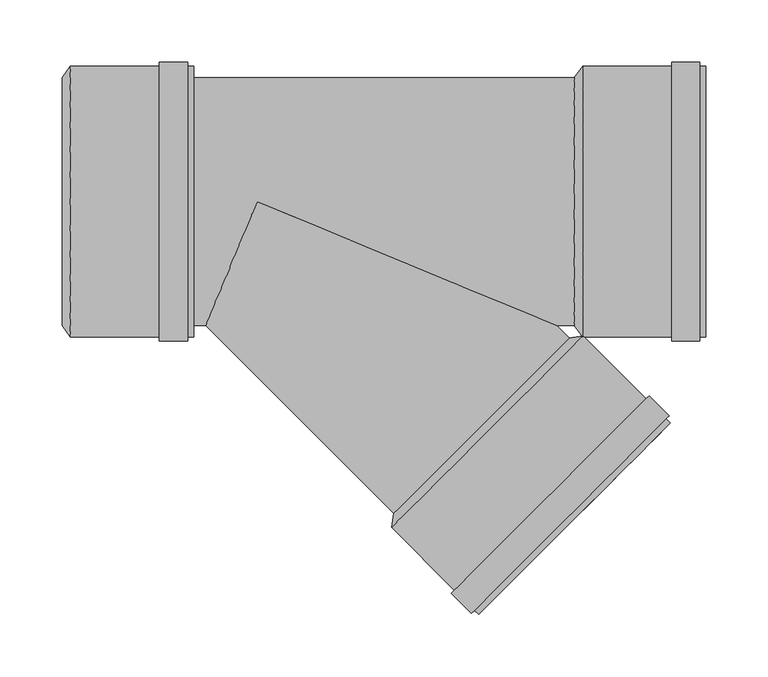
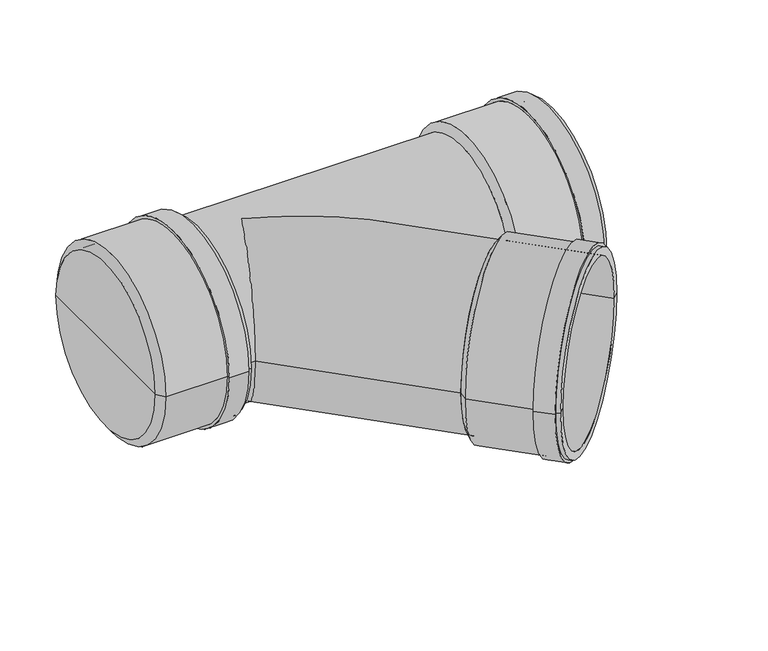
"""IFC4 building model written with IfcOpenShell, lengths in millimetres: pipe fitting geometry, pf_KGEA : pf_KGEA."""

from ifc_helpers import new_model, si_unit, frame, origin, place, context, project, spatial, polyline, circle_curve, ellipse_curve, source, transform, mapped, element, save
from ifc_brep_helpers import plane_surface, cylinder_surface, revolved_surface, advanced_brep


def pipe_fitting_58989ca3(model_context):
    return source(origin(), model_context, "Body", "AdvancedBrep", [
        advanced_brep(
        [(109.9551045, -251.3764607, 0.0), (251.3764607, -109.9551045, 0.0), (262.5487479, -108.2580482, 0.0), (108.2580482, -262.5487479, 0.0), (180.6657826, -180.6657826, 0.0), (178.4737516, -332.7644512, 0.0), (332.7644512, -178.4737516, 0.0), (326.3297795, -184.9084233, 0.0), (184.9084233, -326.3297795, 0.0), (175.079639, -329.3703387, 0.0), (329.3703387, -175.079639, 0.0), (172.675476, -331.7745017, 0.0), (331.7745017, -172.675476, 0.0), (156.5534414, -315.6524671, 0.0), (315.6524671, -156.5534414, 0.0), (158.9576044, -313.2483041, 0.0), (313.2483041, -158.9576044, 0.0), (114.6927199, -256.1140761, 0.0), (256.1140761, -114.6927199, 0.0), (185.403398, -185.403398, 0.0)],
        [
            (0, 1, circle_curve(frame((180.6657826, -180.6657826, 0.0), z_axis=(0.7071067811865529, -0.7071067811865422, 0.0), x_axis=(0.7071067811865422, 0.7071067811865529, 0.0)), 100.0)),
            (1, 2),
            (2, 3, circle_curve(frame((185.403398, -185.403398, 0.0), z_axis=(-0.7071067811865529, 0.7071067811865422, 0.0), x_axis=(0.7071067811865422, 0.7071067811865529, 0.0)), 109.1)),
            (3, 0),
            (1, 0, circle_curve(frame((180.6657826, -180.6657826, 0.0), z_axis=(0.7071067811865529, -0.7071067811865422, 0.0), x_axis=(0.7071067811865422, 0.7071067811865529, 0.0)), 100.0)),
            (3, 2, circle_curve(frame((185.403398, -185.403398, 0.0), z_axis=(-0.7071067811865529, 0.7071067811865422, 0.0), x_axis=(0.7071067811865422, 0.7071067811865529, 0.0)), 109.1)),
            (4, 1),
            (0, 4),
            (5, 6, circle_curve(frame((255.6191014, -255.6191014, 0.0), z_axis=(0.7071067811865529, -0.7071067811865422, 0.0), x_axis=(0.7071067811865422, 0.7071067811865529, 0.0)), 109.1)),
            (6, 7),
            (7, 8, circle_curve(frame((255.6191014, -255.6191014, 0.0), z_axis=(-0.7071067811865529, 0.7071067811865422, 0.0), x_axis=(0.7071067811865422, 0.7071067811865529, 0.0)), 100.0)),
            (8, 5),
            (6, 5, circle_curve(frame((255.6191014, -255.6191014, 0.0), z_axis=(0.7071067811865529, -0.7071067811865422, 0.0), x_axis=(0.7071067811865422, 0.7071067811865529, 0.0)), 109.1)),
            (8, 7, circle_curve(frame((255.6191014, -255.6191014, 0.0), z_axis=(-0.7071067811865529, 0.7071067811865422, 0.0), x_axis=(0.7071067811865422, 0.7071067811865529, 0.0)), 100.0)),
            (9, 10, circle_curve(frame((252.2249888, -252.2249888, 0.0), z_axis=(0.7071067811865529, -0.7071067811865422, 0.0), x_axis=(0.7071067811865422, 0.7071067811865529, 0.0)), 109.1)),
            (10, 6),
            (5, 9),
            (10, 9, circle_curve(frame((252.2249888, -252.2249888, 0.0), z_axis=(0.7071067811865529, -0.7071067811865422, 0.0), x_axis=(0.7071067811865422, 0.7071067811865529, 0.0)), 109.1)),
            (11, 12, circle_curve(frame((252.2249888, -252.2249888, 0.0), z_axis=(0.7071067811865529, -0.7071067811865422, 0.0), x_axis=(0.7071067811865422, 0.7071067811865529, 0.0)), 112.5)),
            (12, 10),
            (9, 11),
            (12, 11, circle_curve(frame((252.2249888, -252.2249888, 0.0), z_axis=(0.7071067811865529, -0.7071067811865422, 0.0), x_axis=(0.7071067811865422, 0.7071067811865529, 0.0)), 112.5)),
            (13, 14, circle_curve(frame((236.1029542, -236.1029542, 0.0), z_axis=(0.7071067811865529, -0.7071067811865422, 0.0), x_axis=(0.7071067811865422, 0.7071067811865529, 0.0)), 112.5)),
            (14, 12),
            (11, 13),
            (14, 13, circle_curve(frame((236.1029542, -236.1029542, 0.0), z_axis=(0.7071067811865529, -0.7071067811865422, 0.0), x_axis=(0.7071067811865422, 0.7071067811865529, 0.0)), 112.5)),
            (15, 16, circle_curve(frame((236.1029542, -236.1029542, 0.0), z_axis=(0.7071067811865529, -0.7071067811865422, 0.0), x_axis=(0.7071067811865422, 0.7071067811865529, 0.0)), 109.1)),
            (16, 14),
            (13, 15),
            (16, 15, circle_curve(frame((236.1029542, -236.1029542, 0.0), z_axis=(0.7071067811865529, -0.7071067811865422, 0.0), x_axis=(0.7071067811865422, 0.7071067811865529, 0.0)), 109.1)),
            (2, 16),
            (15, 3),
            (17, 18, circle_curve(frame((185.403398, -185.403398, 0.0), z_axis=(0.7071067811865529, -0.7071067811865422, 0.0), x_axis=(0.7071067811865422, 0.7071067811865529, 0.0)), 100.0)),
            (18, 19),
            (19, 17),
            (18, 17, circle_curve(frame((185.403398, -185.403398, 0.0), z_axis=(0.7071067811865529, -0.7071067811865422, 0.0), x_axis=(0.7071067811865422, 0.7071067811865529, 0.0)), 100.0)),
            (7, 18),
            (17, 8),
        ],
        [
            revolved_surface(polyline([(262.5487479, -108.2580482, 0.0), (251.3764607, -109.9551045, 0.0)]), (180.6657826, -180.6657826, 0.0), (-0.7071067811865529, 0.7071067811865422, 0.0)),
            plane_surface(frame((180.6657826, -180.6657826, 0.0), z_axis=(-0.7071067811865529, 0.7071067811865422, 0.0), x_axis=(0.7071067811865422, 0.7071067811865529, 0.0))),
            plane_surface(frame((255.6191014, -255.6191014, 0.0), z_axis=(0.7071067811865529, -0.7071067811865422, 0.0), x_axis=(0.7071067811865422, 0.7071067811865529, 0.0))),
            cylinder_surface(frame((180.6657826, -180.6657826, 0.0), z_axis=(-0.7071067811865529, 0.7071067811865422, 0.0), x_axis=(0.7071067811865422, 0.7071067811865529, 0.0)), 109.1),
            plane_surface(frame((252.2249888, -252.2249888, 0.0), z_axis=(0.7071067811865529, -0.7071067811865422, 0.0), x_axis=(0.7071067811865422, 0.7071067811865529, 0.0))),
            cylinder_surface(frame((180.6657826, -180.6657826, 0.0), z_axis=(-0.7071067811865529, 0.7071067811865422, 0.0), x_axis=(0.7071067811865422, 0.7071067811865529, 0.0)), 112.5),
            plane_surface(frame((236.1029542, -236.1029542, 0.0), z_axis=(-0.7071067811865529, 0.7071067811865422, 0.0), x_axis=(0.7071067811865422, 0.7071067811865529, 0.0))),
            plane_surface(frame((185.403398, -185.403398, 0.0), z_axis=(0.7071067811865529, -0.7071067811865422, 0.0), x_axis=(0.7071067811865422, 0.7071067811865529, 0.0))),
            revolved_surface(polyline([(256.1140761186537, -114.69271988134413, 0.0), (326.32977951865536, -184.90842328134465, 0.0)]), (180.6657826, -180.6657826, 0.0), (-0.7071067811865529, 0.7071067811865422, 0.0)),
        ],
        [
            (0, [[1, 2, 3, 4]]),
            (0, [[5, -4, 6, -2]]),
            (1, [[7, -1, 8]]),
            (1, [[-8, -5, -7]]),
            (2, [[9, 10, 11, 12]]),
            (2, [[13, -12, 14, -10]]),
            (3, [[15, 16, -9, 17]]),
            (3, [[18, -17, -13, -16]]),
            (4, [[19, 20, -15, 21]]),
            (4, [[22, -21, -18, -20]]),
            (5, [[23, 24, -19, 25]]),
            (5, [[26, -25, -22, -24]]),
            (6, [[27, 28, -23, 29]]),
            (6, [[30, -29, -26, -28]]),
            (3, [[-3, 31, -27, 32]]),
            (3, [[-6, -32, -30, -31]]),
            (7, [[33, 34, 35]]),
            (7, [[36, -35, -34]]),
            (8, [[-11, 37, -33, 38]]),
            (8, [[-14, -38, -36, -37]]),
        ],
    ),
        advanced_brep(
        [(255.5, -100.0, 0.0), (255.5, 100.0, 0.0), (262.2, 109.1, 0.0), (262.2, -109.1, 0.0), (255.5, 0.0, 0.0), (361.5, -109.1, 0.0), (361.5, 109.1, 0.0), (361.5, 100.0, 0.0), (361.5, -100.0, 0.0), (356.7, -109.1, 0.0), (356.7, 109.1, 0.0), (356.7, -112.5, 0.0), (356.7, 112.5, 0.0), (333.9, -112.5, 0.0), (333.9, 112.5, 0.0), (333.9, -109.1, 0.0), (333.9, 109.1, 0.0), (262.2, -100.0, 0.0), (262.2, 100.0, 0.0), (262.2, 0.0, 0.0)],
        [
            (0, 1, circle_curve(frame((255.5, 0.0, 0.0), z_axis=(1.0, 0.0, 0.0), x_axis=(0.0, 1.0, 0.0)), 100.0)),
            (1, 2),
            (2, 3, circle_curve(frame((262.2, 0.0, 0.0), z_axis=(-1.0, 0.0, 0.0), x_axis=(0.0, 1.0, 0.0)), 109.1)),
            (3, 0),
            (1, 0, circle_curve(frame((255.5, 0.0, 0.0), z_axis=(1.0, 0.0, 0.0), x_axis=(0.0, 1.0, 0.0)), 100.0)),
            (3, 2, circle_curve(frame((262.2, 0.0, 0.0), z_axis=(-1.0, 0.0, 0.0), x_axis=(0.0, 1.0, 0.0)), 109.1)),
            (4, 1),
            (0, 4),
            (5, 6, circle_curve(frame((361.5, 0.0, 0.0), z_axis=(1.0, 0.0, 0.0), x_axis=(0.0, 1.0, 0.0)), 109.1)),
            (6, 7),
            (7, 8, circle_curve(frame((361.5, 0.0, 0.0), z_axis=(-1.0, 0.0, 0.0), x_axis=(0.0, 1.0, 0.0)), 100.0)),
            (8, 5),
            (6, 5, circle_curve(frame((361.5, 0.0, 0.0), z_axis=(1.0, 0.0, 0.0), x_axis=(0.0, 1.0, 0.0)), 109.1)),
            (8, 7, circle_curve(frame((361.5, 0.0, 0.0), z_axis=(-1.0, 0.0, 0.0), x_axis=(0.0, 1.0, 0.0)), 100.0)),
            (9, 10, circle_curve(frame((356.7, 0.0, 0.0), z_axis=(1.0, 0.0, 0.0), x_axis=(0.0, 1.0, 0.0)), 109.1)),
            (10, 6),
            (5, 9),
            (10, 9, circle_curve(frame((356.7, 0.0, 0.0), z_axis=(1.0, 0.0, 0.0), x_axis=(0.0, 1.0, 0.0)), 109.1)),
            (11, 12, circle_curve(frame((356.7, 0.0, 0.0), z_axis=(1.0, 0.0, 0.0), x_axis=(0.0, 1.0, 0.0)), 112.5)),
            (12, 10),
            (9, 11),
            (12, 11, circle_curve(frame((356.7, 0.0, 0.0), z_axis=(1.0, 0.0, 0.0), x_axis=(0.0, 1.0, 0.0)), 112.5)),
            (13, 14, circle_curve(frame((333.9, 0.0, 0.0), z_axis=(1.0, 0.0, 0.0), x_axis=(0.0, 1.0, 0.0)), 112.5)),
            (14, 12),
            (11, 13),
            (14, 13, circle_curve(frame((333.9, 0.0, 0.0), z_axis=(1.0, 0.0, 0.0), x_axis=(0.0, 1.0, 0.0)), 112.5)),
            (15, 16, circle_curve(frame((333.9, 0.0, 0.0), z_axis=(1.0, 0.0, 0.0), x_axis=(0.0, 1.0, 0.0)), 109.1)),
            (16, 14),
            (13, 15),
            (16, 15, circle_curve(frame((333.9, 0.0, 0.0), z_axis=(1.0, 0.0, 0.0), x_axis=(0.0, 1.0, 0.0)), 109.1)),
            (2, 16),
            (15, 3),
            (17, 18, circle_curve(frame((262.2, 0.0, 0.0), z_axis=(1.0, 0.0, 0.0), x_axis=(0.0, 1.0, 0.0)), 100.0)),
            (18, 19),
            (19, 17),
            (18, 17, circle_curve(frame((262.2, 0.0, 0.0), z_axis=(1.0, 0.0, 0.0), x_axis=(0.0, 1.0, 0.0)), 100.0)),
            (7, 18),
            (17, 8),
        ],
        [
            revolved_surface(polyline([(262.2, 109.1, 0.0), (255.5, 100.0, 0.0)]), (255.5, 0.0, 0.0), (-1.0, 0.0, 0.0)),
            plane_surface(frame((255.5, 0.0, 0.0), z_axis=(-1.0, 0.0, 0.0), x_axis=(0.0, 1.0, 0.0))),
            plane_surface(frame((361.5, 0.0, 0.0), z_axis=(1.0, 0.0, 0.0), x_axis=(0.0, 1.0, 0.0))),
            cylinder_surface(frame((255.5, 0.0, 0.0), z_axis=(-1.0, 0.0, 0.0), x_axis=(0.0, 1.0, 0.0)), 109.1),
            plane_surface(frame((356.7, 0.0, 0.0), z_axis=(1.0, 0.0, 0.0), x_axis=(0.0, 1.0, 0.0))),
            cylinder_surface(frame((255.5, 0.0, 0.0), z_axis=(-1.0, 0.0, 0.0), x_axis=(0.0, 1.0, 0.0)), 112.5),
            plane_surface(frame((333.9, 0.0, 0.0), z_axis=(-1.0, 0.0, 0.0), x_axis=(0.0, 1.0, 0.0))),
            plane_surface(frame((262.2, 0.0, 0.0), z_axis=(1.0, 0.0, 0.0), x_axis=(0.0, 1.0, 0.0))),
            revolved_surface(polyline([(262.2, 100.0, 0.0), (361.5, 100.0, 0.0)]), (255.5, 0.0, 0.0), (-1.0, 0.0, 0.0)),
        ],
        [
            (0, [[1, 2, 3, 4]]),
            (0, [[5, -4, 6, -2]]),
            (1, [[7, -1, 8]]),
            (1, [[-8, -5, -7]]),
            (2, [[9, 10, 11, 12]]),
            (2, [[13, -12, 14, -10]]),
            (3, [[15, 16, -9, 17]]),
            (3, [[18, -17, -13, -16]]),
            (4, [[19, 20, -15, 21]]),
            (4, [[22, -21, -18, -20]]),
            (5, [[23, 24, -19, 25]]),
            (5, [[26, -25, -22, -24]]),
            (6, [[27, 28, -23, 29]]),
            (6, [[30, -29, -26, -28]]),
            (3, [[-3, 31, -27, 32]]),
            (3, [[-6, -32, -30, -31]]),
            (7, [[33, 34, 35]]),
            (7, [[36, -35, -34]]),
            (8, [[-11, 37, -33, 38]]),
            (8, [[-14, -38, -36, -37]]),
        ],
    ),
        advanced_brep(
        [(-157.1, -100.0, 0.0), (-157.1, 100.0, 0.0), (-150.4, 109.1, 0.0), (-150.4, -109.1, 0.0), (-157.1, 0.0, 0.0), (-51.1, -109.1, 0.0), (-51.1, 109.1, 0.0), (-51.1, 100.0, 0.0), (-51.1, -100.0, 0.0), (-55.9, -109.1, 0.0), (-55.9, 109.1, 0.0), (-55.9, -112.5, 0.0), (-55.9, 112.5, 0.0), (-78.7, -112.5, 0.0), (-78.7, 112.5, 0.0), (-78.7, -109.1, 0.0), (-78.7, 109.1, 0.0), (-150.4, -100.0, 0.0), (-150.4, 100.0, 0.0), (-150.4, 0.0, 0.0)],
        [
            (0, 1, circle_curve(frame((-157.1, 0.0, 0.0), z_axis=(1.0, 0.0, 0.0), x_axis=(0.0, 1.0, 0.0)), 100.0)),
            (1, 2),
            (2, 3, circle_curve(frame((-150.4, 0.0, 0.0), z_axis=(-1.0, 0.0, 0.0), x_axis=(0.0, 1.0, 0.0)), 109.1)),
            (3, 0),
            (1, 0, circle_curve(frame((-157.1, 0.0, 0.0), z_axis=(1.0, 0.0, 0.0), x_axis=(0.0, 1.0, 0.0)), 100.0)),
            (3, 2, circle_curve(frame((-150.4, 0.0, 0.0), z_axis=(-1.0, 0.0, 0.0), x_axis=(0.0, 1.0, 0.0)), 109.1)),
            (4, 1),
            (0, 4),
            (5, 6, circle_curve(frame((-51.1, 0.0, 0.0), z_axis=(1.0, 0.0, 0.0), x_axis=(0.0, 1.0, 0.0)), 109.1)),
            (6, 7),
            (7, 8, circle_curve(frame((-51.1, 0.0, 0.0), z_axis=(-1.0, 0.0, 0.0), x_axis=(0.0, 1.0, 0.0)), 100.0)),
            (8, 5),
            (6, 5, circle_curve(frame((-51.1, 0.0, 0.0), z_axis=(1.0, 0.0, 0.0), x_axis=(0.0, 1.0, 0.0)), 109.1)),
            (8, 7, circle_curve(frame((-51.1, 0.0, 0.0), z_axis=(-1.0, 0.0, 0.0), x_axis=(0.0, 1.0, 0.0)), 100.0)),
            (9, 10, circle_curve(frame((-55.9, 0.0, 0.0), z_axis=(1.0, 0.0, 0.0), x_axis=(0.0, 1.0, 0.0)), 109.1)),
            (10, 6),
            (5, 9),
            (10, 9, circle_curve(frame((-55.9, 0.0, 0.0), z_axis=(1.0, 0.0, 0.0), x_axis=(0.0, 1.0, 0.0)), 109.1)),
            (11, 12, circle_curve(frame((-55.9, 0.0, 0.0), z_axis=(1.0, 0.0, 0.0), x_axis=(0.0, 1.0, 0.0)), 112.5)),
            (12, 10),
            (9, 11),
            (12, 11, circle_curve(frame((-55.9, 0.0, 0.0), z_axis=(1.0, 0.0, 0.0), x_axis=(0.0, 1.0, 0.0)), 112.5)),
            (13, 14, circle_curve(frame((-78.7, 0.0, 0.0), z_axis=(1.0, 0.0, 0.0), x_axis=(0.0, 1.0, 0.0)), 112.5)),
            (14, 12),
            (11, 13),
            (14, 13, circle_curve(frame((-78.7, 0.0, 0.0), z_axis=(1.0, 0.0, 0.0), x_axis=(0.0, 1.0, 0.0)), 112.5)),
            (15, 16, circle_curve(frame((-78.7, 0.0, 0.0), z_axis=(1.0, 0.0, 0.0), x_axis=(0.0, 1.0, 0.0)), 109.1)),
            (16, 14),
            (13, 15),
            (16, 15, circle_curve(frame((-78.7, 0.0, 0.0), z_axis=(1.0, 0.0, 0.0), x_axis=(0.0, 1.0, 0.0)), 109.1)),
            (2, 16),
            (15, 3),
            (17, 18, circle_curve(frame((-150.4, 0.0, 0.0), z_axis=(1.0, 0.0, 0.0), x_axis=(0.0, 1.0, 0.0)), 100.0)),
            (18, 19),
            (19, 17),
            (18, 17, circle_curve(frame((-150.4, 0.0, 0.0), z_axis=(1.0, 0.0, 0.0), x_axis=(0.0, 1.0, 0.0)), 100.0)),
            (7, 18),
            (17, 8),
        ],
        [
            revolved_surface(polyline([(-150.4, 109.1, 0.0), (-157.1, 100.0, 0.0)]), (-157.1, 0.0, 0.0), (-1.0, 0.0, 0.0)),
            plane_surface(frame((-157.1, 0.0, 0.0), z_axis=(-1.0, 0.0, 0.0), x_axis=(0.0, 1.0, 0.0))),
            plane_surface(frame((-51.1, 0.0, 0.0), z_axis=(1.0, 0.0, 0.0), x_axis=(0.0, 1.0, 0.0))),
            cylinder_surface(frame((-157.1, 0.0, 0.0), z_axis=(-1.0, 0.0, 0.0), x_axis=(0.0, 1.0, 0.0)), 109.1),
            plane_surface(frame((-55.9, 0.0, 0.0), z_axis=(1.0, 0.0, 0.0), x_axis=(0.0, 1.0, 0.0))),
            cylinder_surface(frame((-157.1, 0.0, 0.0), z_axis=(-1.0, 0.0, 0.0), x_axis=(0.0, 1.0, 0.0)), 112.5),
            plane_surface(frame((-78.7, 0.0, 0.0), z_axis=(-1.0, 0.0, 0.0), x_axis=(0.0, 1.0, 0.0))),
            plane_surface(frame((-150.4, 0.0, 0.0), z_axis=(1.0, 0.0, 0.0), x_axis=(0.0, 1.0, 0.0))),
            revolved_surface(polyline([(-150.4, 100.0, 0.0), (-51.099999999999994, 100.0, 0.0)]), (-157.1, 0.0, 0.0), (-1.0, 0.0, 0.0)),
        ],
        [
            (0, [[1, 2, 3, 4]]),
            (0, [[5, -4, 6, -2]]),
            (1, [[7, -1, 8]]),
            (1, [[-8, -5, -7]]),
            (2, [[9, 10, 11, 12]]),
            (2, [[13, -12, 14, -10]]),
            (3, [[15, 16, -9, 17]]),
            (3, [[18, -17, -13, -16]]),
            (4, [[19, 20, -15, 21]]),
            (4, [[22, -21, -18, -20]]),
            (5, [[23, 24, -19, 25]]),
            (5, [[26, -25, -22, -24]]),
            (6, [[27, 28, -23, 29]]),
            (6, [[30, -29, -26, -28]]),
            (3, [[-3, 31, -27, 32]]),
            (3, [[-6, -32, -30, -31]]),
            (7, [[33, 34, 35]]),
            (7, [[36, -35, -34]]),
            (8, [[-11, 37, -33, 38]]),
            (8, [[-14, -38, -36, -37]]),
        ],
    ),
        advanced_brep(
        [(-150.4, -100.0, 0.0), (-150.4, 100.0, 0.0), (255.5, -100.0, 0.0), (255.5, 100.0, 0.0), (-41.4213562, -100.0, 0.0), (0.0, 0.0, 100.0), (241.4213562, -100.0, 0.0), (0.0, 0.0, -100.0), (109.9551045, -251.3764607, 0.0), (251.3764607, -109.9551045, 0.0)],
        [
            (0, 1, circle_curve(frame((-150.4, 0.0, 0.0), z_axis=(-1.0, 0.0, 0.0), x_axis=(0.0, 1.0, 0.0)), 100.0)),
            (1, 0, circle_curve(frame((-150.4, 0.0, 0.0), z_axis=(-1.0, 0.0, 0.0), x_axis=(0.0, 1.0, 0.0)), 100.0)),
            (2, 3, circle_curve(frame((255.5, 0.0, 0.0), z_axis=(1.0, 0.0, 0.0), x_axis=(0.0, 1.0, 0.0)), 100.0)),
            (3, 2, circle_curve(frame((255.5, 0.0, 0.0), z_axis=(1.0, 0.0, 0.0), x_axis=(0.0, 1.0, 0.0)), 100.0)),
            (0, 4),
            (4, 5, ellipse_curve(frame((0.0, 0.0, 0.0), z_axis=(-0.923879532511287, 0.38268343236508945, 0.0), x_axis=(-0.38268343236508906, -0.9238795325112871, 0.0)), 108.23922, 100.0)),
            (5, 6, ellipse_curve(frame((0.0, 0.0, 0.0), z_axis=(0.3826834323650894, 0.9238795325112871, 0.0), x_axis=(-0.923879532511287, 0.38268343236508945, 0.0)), 261.312593, 100.0)),
            (6, 2),
            (3, 1),
            (6, 7, ellipse_curve(frame((0.0, 0.0, 0.0), z_axis=(0.3826834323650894, 0.9238795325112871, 0.0), x_axis=(-0.923879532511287, 0.38268343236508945, 0.0)), 261.312593, 100.0)),
            (7, 4, ellipse_curve(frame((0.0, 0.0, 0.0), z_axis=(-0.923879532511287, 0.38268343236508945, 0.0), x_axis=(-0.38268343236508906, -0.9238795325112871, 0.0)), 108.23922, 100.0)),
            (8, 9, circle_curve(frame((180.6657826, -180.6657826, 0.0), z_axis=(0.7071067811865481, -0.707106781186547, 0.0), x_axis=(0.707106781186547, 0.7071067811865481, 0.0)), 100.0)),
            (9, 8, circle_curve(frame((180.6657826, -180.6657826, 0.0), z_axis=(0.7071067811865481, -0.707106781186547, 0.0), x_axis=(0.707106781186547, 0.7071067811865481, 0.0)), 100.0)),
            (9, 6),
            (4, 8),
        ],
        [
            plane_surface(frame((-150.4, 0.0, 0.0), z_axis=(-1.0, 0.0, 0.0), x_axis=(0.0, 0.0, 1.0))),
            plane_surface(frame((255.5, 0.0, 0.0), z_axis=(1.0, 0.0, 0.0), x_axis=(0.0, 0.0, 1.0))),
            cylinder_surface(frame((-150.4, 0.0, 0.0), z_axis=(-1.0, 0.0, 0.0), x_axis=(0.0, 1.0, 0.0)), 100.0),
            plane_surface(frame((180.6657826, -180.6657826, 0.0), z_axis=(0.7071067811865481, -0.707106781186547, 0.0), x_axis=(0.0, 0.0, 1.0))),
            cylinder_surface(frame((0.0, 0.0, 0.0), z_axis=(-0.7071067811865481, 0.707106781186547, 0.0), x_axis=(0.707106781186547, 0.7071067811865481, 0.0)), 100.0),
        ],
        [
            (0, [[1, 2]]),
            (1, [[3, 4]]),
            (2, [[-1, 5, 6, 7, 8, -4, 9]]),
            (2, [[-2, -9, -3, -8, 10, 11, -5]]),
            (3, [[12, 13]]),
            (4, [[-13, 14, -7, -6, 15]]),
            (4, [[-12, -15, -11, -10, -14]]),
        ],
    ),
    ])


if __name__ == "__main__":
    model = new_model("IFC4")
    model_context = context("Model", 3, world=origin())
    ifc_project = project(units=[si_unit("LENGTHUNIT", "METRE", prefix="MILLI")], contexts=[model_context])
    site = spatial("IfcSite", under=ifc_project)
    building = spatial("IfcBuilding", under=site)
    placement = place(None, origin())
    pipe_fitting_shape = pipe_fitting_58989ca3(model_context)
    element("IfcPipeFitting", 1, ObjectType="pf_KGEA : pf_KGEA", at=placement, inside=building, context=model_context, shape_type="MappedRepresentation", body=[
        mapped(pipe_fitting_shape, transform((0.0, 0.0, 0.0), x_axis=(1.0, 0.0, 0.0), y_axis=(0.0, 1.0, 0.0), z_axis=(0.0, 0.0, 1.0))),
    ])
    save(model, "model.ifc")
